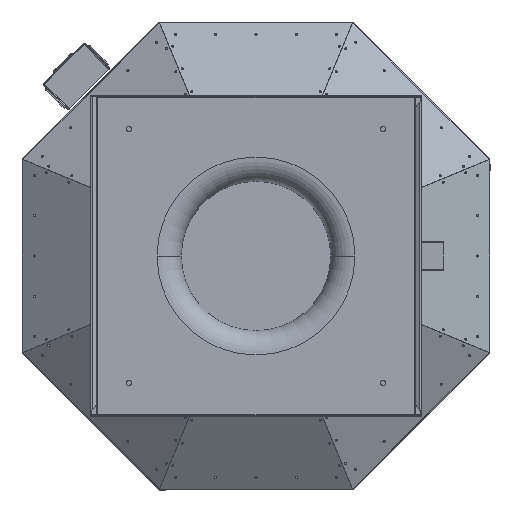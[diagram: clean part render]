
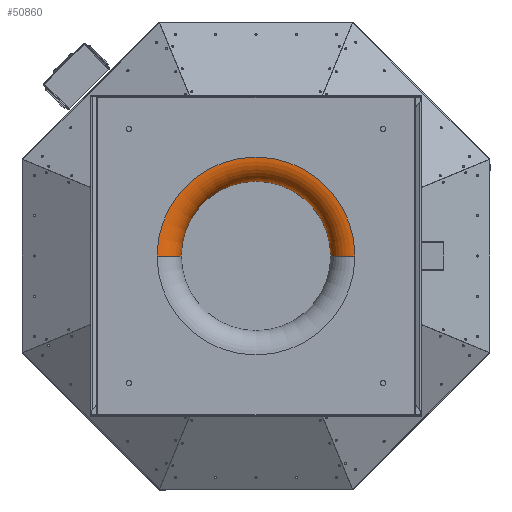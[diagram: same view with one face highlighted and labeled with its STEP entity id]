
A CAD part, front view. The second image highlights one B-rep face of the part: STEP entity #50860.
In plain terms, the highlighted toroidal (fillet/blend) face has major radius 208 mm and minor radius 51 mm.
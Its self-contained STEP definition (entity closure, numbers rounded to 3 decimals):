
#2149 = CIRCLE ( 'NONE', #104738, 157. ) ;
#3413 = EDGE_CURVE ( 'NONE', #127181, #62872, #43280, .T. ) ;
#8919 = DIRECTION ( 'NONE',  ( 1., 0., 0. ) ) ;
#22675 = CIRCLE ( 'NONE', #117538, 208. ) ;
#28013 = EDGE_CURVE ( 'NONE', #62872, #121491, #2149, .T. ) ;
#29224 = ORIENTED_EDGE ( 'NONE', *, *, #3413, .F. ) ;
#34613 = CARTESIAN_POINT ( 'NONE',  ( 208., 50., 0. ) ) ;
#36999 = CARTESIAN_POINT ( 'NONE',  ( 0., 50., 0. ) ) ;
#41315 = CARTESIAN_POINT ( 'NONE',  ( -157., 50., 0. ) ) ;
#42714 = VERTEX_POINT ( 'NONE', #106415 ) ;
#43280 = CIRCLE ( 'NONE', #93678, 51. ) ;
#44724 = DIRECTION ( 'NONE',  ( 0., 1., 0. ) ) ;
#45750 = EDGE_CURVE ( 'NONE', #42714, #121491, #67286, .T. ) ;
#47092 = EDGE_CURVE ( 'NONE', #127181, #42714, #22675, .T. ) ;
#50860 = ADVANCED_FACE ( 'NONE', ( #83525 ), #107204, .T. ) ;
#53669 = CARTESIAN_POINT ( 'NONE',  ( 0., 50., 0. ) ) ;
#57793 = DIRECTION ( 'NONE',  ( 0., 0., 1. ) ) ;
#62037 = ORIENTED_EDGE ( 'NONE', *, *, #47092, .T. ) ;
#62872 = VERTEX_POINT ( 'NONE', #89753 ) ;
#63817 = DIRECTION ( 'NONE',  ( 1., 0., 0. ) ) ;
#65940 = AXIS2_PLACEMENT_3D ( 'NONE', #36999, #77310, #107848 ) ;
#67286 = CIRCLE ( 'NONE', #75057, 51. ) ;
#69488 = DIRECTION ( 'NONE',  ( 0., -1., 0. ) ) ;
#75057 = AXIS2_PLACEMENT_3D ( 'NONE', #118458, #57793, #128577 ) ;
#77310 = DIRECTION ( 'NONE',  ( 0., -1., 0. ) ) ;
#83525 = FACE_OUTER_BOUND ( 'NONE', #126350, .T. ) ;
#89753 = CARTESIAN_POINT ( 'NONE',  ( 157., 50., 0. ) ) ;
#89903 = ORIENTED_EDGE ( 'NONE', *, *, #45750, .T. ) ;
#90879 = ORIENTED_EDGE ( 'NONE', *, *, #28013, .F. ) ;
#93678 = AXIS2_PLACEMENT_3D ( 'NONE', #34613, #105433, #44724 ) ;
#104738 = AXIS2_PLACEMENT_3D ( 'NONE', #53669, #124452, #63817 ) ;
#105433 = DIRECTION ( 'NONE',  ( 0., 0., -1. ) ) ;
#106415 = CARTESIAN_POINT ( 'NONE',  ( -208., -1., 0. ) ) ;
#107204 = TOROIDAL_SURFACE ( 'NONE', #65940, 208., 51. ) ;
#107848 = DIRECTION ( 'NONE',  ( 1., 0., 0. ) ) ;
#117538 = AXIS2_PLACEMENT_3D ( 'NONE', #130058, #69488, #8919 ) ;
#118458 = CARTESIAN_POINT ( 'NONE',  ( -208., 50., 0. ) ) ;
#121491 = VERTEX_POINT ( 'NONE', #41315 ) ;
#122955 = CARTESIAN_POINT ( 'NONE',  ( 208., -1., 0. ) ) ;
#124452 = DIRECTION ( 'NONE',  ( 0., -1., 0. ) ) ;
#126350 = EDGE_LOOP ( 'NONE', ( #62037, #89903, #90879, #29224 ) ) ;
#127181 = VERTEX_POINT ( 'NONE', #122955 ) ;
#128577 = DIRECTION ( 'NONE',  ( 1., 0., 0. ) ) ;
#130058 = CARTESIAN_POINT ( 'NONE',  ( 0., -1., 0. ) ) ;
